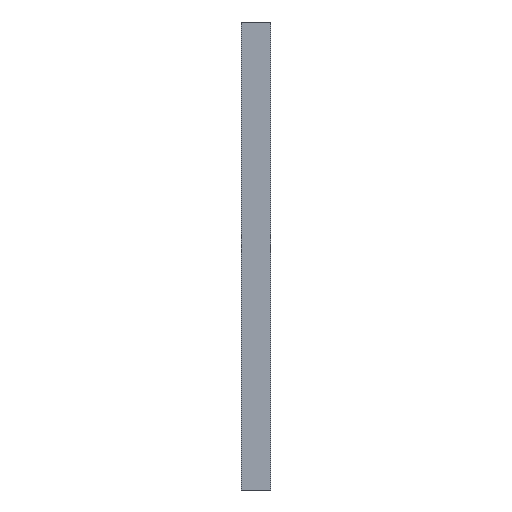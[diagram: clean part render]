
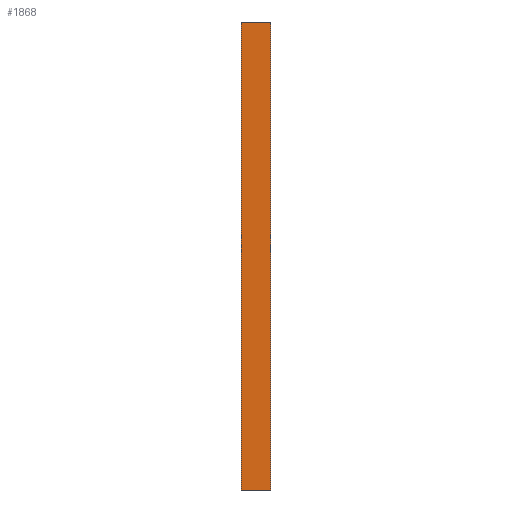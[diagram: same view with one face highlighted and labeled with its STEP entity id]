
A CAD part, left-side view. The second image highlights one B-rep face of the part: STEP entity #1868.
In plain terms, the highlighted planar face has unit normal (-1, 0, 0).
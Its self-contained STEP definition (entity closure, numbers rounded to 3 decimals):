
#8 = ORIENTED_EDGE ( 'NONE', *, *, #343, .T. ) ;
#21 = DIRECTION ( 'NONE',  ( 0., 0., 1. ) ) ;
#29 = CARTESIAN_POINT ( 'NONE',  ( -62.5, 0., -62.5 ) ) ;
#75 = DIRECTION ( 'NONE',  ( 0., -1., 0. ) ) ;
#104 = LINE ( 'NONE', #1623, #1825 ) ;
#106 = EDGE_LOOP ( 'NONE', ( #1898, #270, #1799, #8 ) ) ;
#236 = AXIS2_PLACEMENT_3D ( 'NONE', #446, #1433, #1466 ) ;
#270 = ORIENTED_EDGE ( 'NONE', *, *, #875, .F. ) ;
#305 = VECTOR ( 'NONE', #21, 1000. ) ;
#343 = EDGE_CURVE ( 'NONE', #1835, #406, #1936, .T. ) ;
#406 = VERTEX_POINT ( 'NONE', #657 ) ;
#408 = VECTOR ( 'NONE', #75, 1000. ) ;
#436 = FACE_OUTER_BOUND ( 'NONE', #106, .T. ) ;
#446 = CARTESIAN_POINT ( 'NONE',  ( -62.5, 8., -62.5 ) ) ;
#518 = LINE ( 'NONE', #1176, #305 ) ;
#528 = LINE ( 'NONE', #29, #1730 ) ;
#571 = EDGE_CURVE ( 'NONE', #406, #1559, #528, .T. ) ;
#642 = CARTESIAN_POINT ( 'NONE',  ( -62.5, 8., -62.5 ) ) ;
#657 = CARTESIAN_POINT ( 'NONE',  ( -62.5, 0., -62.5 ) ) ;
#875 = EDGE_CURVE ( 'NONE', #2092, #1559, #104, .T. ) ;
#1059 = CARTESIAN_POINT ( 'NONE',  ( -62.5, 0., 62.5 ) ) ;
#1127 = PLANE ( 'NONE',  #236 ) ;
#1176 = CARTESIAN_POINT ( 'NONE',  ( -62.5, 8., -62.5 ) ) ;
#1358 = DIRECTION ( 'NONE',  ( 0., 0., 1. ) ) ;
#1433 = DIRECTION ( 'NONE',  ( 1., 0., 0. ) ) ;
#1466 = DIRECTION ( 'NONE',  ( 0., 0., -1. ) ) ;
#1559 = VERTEX_POINT ( 'NONE', #1059 ) ;
#1623 = CARTESIAN_POINT ( 'NONE',  ( -62.5, 8., 62.5 ) ) ;
#1634 = DIRECTION ( 'NONE',  ( 0., -1., 0. ) ) ;
#1730 = VECTOR ( 'NONE', #1358, 1000. ) ;
#1799 = ORIENTED_EDGE ( 'NONE', *, *, #1830, .F. ) ;
#1825 = VECTOR ( 'NONE', #1634, 1000. ) ;
#1830 = EDGE_CURVE ( 'NONE', #1835, #2092, #518, .T. ) ;
#1835 = VERTEX_POINT ( 'NONE', #642 ) ;
#1868 = ADVANCED_FACE ( 'NONE', ( #436 ), #1127, .F. ) ;
#1874 = CARTESIAN_POINT ( 'NONE',  ( -62.5, 8., 62.5 ) ) ;
#1898 = ORIENTED_EDGE ( 'NONE', *, *, #571, .T. ) ;
#1936 = LINE ( 'NONE', #2116, #408 ) ;
#2092 = VERTEX_POINT ( 'NONE', #1874 ) ;
#2116 = CARTESIAN_POINT ( 'NONE',  ( -62.5, 8., -62.5 ) ) ;
